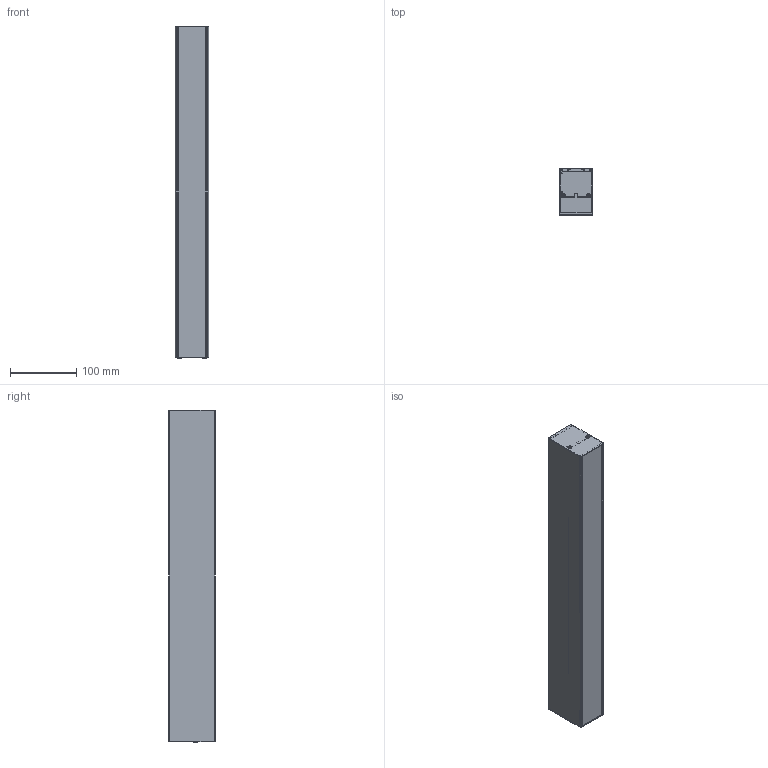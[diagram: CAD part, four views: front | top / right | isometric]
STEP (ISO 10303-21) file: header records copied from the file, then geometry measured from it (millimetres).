
FILE_DESCRIPTION(('STEP AP203'), '1');
FILE_NAME('MIKKO SHORT', '', ('UNSPECIFIED'), ('UNSPECIFIED'), 'ASCON STEP Converter 1.6', 'ASCON Math Kernel', '');
FILE_SCHEMA(('CONFIG_CONTROL_DESIGN'));
Length unit declared in the file: millimetre
Assembly tree (4 placements, depth 2):
  (unnamed)
    (unnamed)  x4
Bounding box: 50 x 70 x 502.3 mm (x, y, z)
Volume: 224273.4 mm3; surface area: 348038.6 mm2
Topology: 9 solids, 9 shells, 336 faces, 925 edges, 620 vertices
Faces by surface type: plane 160, cylinder 138, bspline 16, cone 12, torus 10
Full cylindrical faces by diameter (mm): 2.9 x4, 6.3 x4, 8 x1, 10 x2, 14 x2
Entity records: 10789 total; most frequent: CARTESIAN_POINT 1704, DIRECTION 1524, ORIENTED_EDGE 1442, EDGE_CURVE 721, AXIS2_PLACEMENT_3D 547, VERTEX_POINT 489, LINE 430, VECTOR 430
